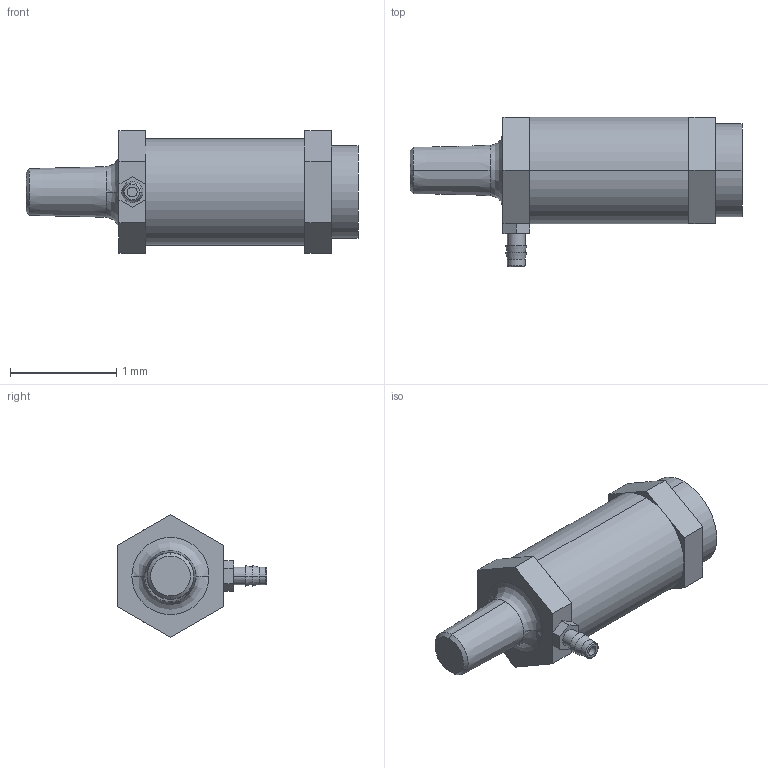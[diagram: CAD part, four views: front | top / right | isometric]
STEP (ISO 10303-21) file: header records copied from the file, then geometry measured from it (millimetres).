
FILE_DESCRIPTION((''),'2;1');
FILE_NAME('UB2.stp','2017-11-06T13:31:51',(''),(''),'Mechanical Desktop 2011','Mechanical Desktop 2011',', , ');
FILE_SCHEMA(('CONFIG_CONTROL_DESIGN'));
Length unit declared in the file: millimetre
Products named in the file (1): Product
Bounding box: 3.12 x 1.41 x 1.15 mm (x, y, z)
Volume: 1.9 mm3; surface area: 15 mm2
Topology: 5 solids, 5 shells, 54 faces, 115 edges, 75 vertices
Faces by surface type: plane 32, cylinder 10, cone 8, torus 2, bspline 2
Entity records: 1633 total; most frequent: CARTESIAN_POINT 333, DIRECTION 264, ORIENTED_EDGE 230, EDGE_CURVE 115, AXIS2_PLACEMENT_3D 96, VERTEX_POINT 75, VECTOR 72, LINE 72
